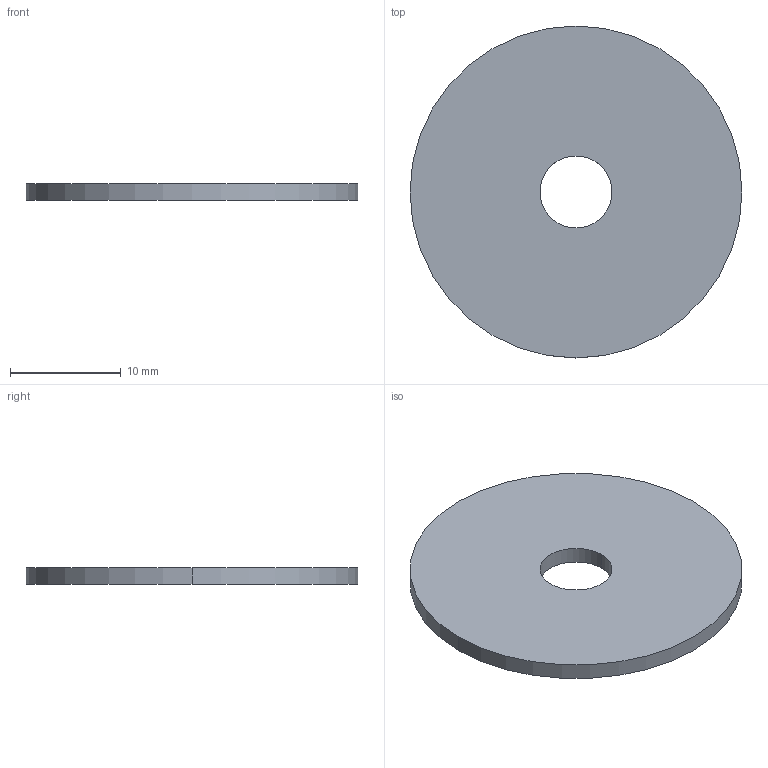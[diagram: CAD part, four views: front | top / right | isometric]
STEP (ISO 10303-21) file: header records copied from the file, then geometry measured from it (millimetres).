
FILE_DESCRIPTION (( 'STEP AP203' ), '1' );
FILE_NAME ('P0333.060-030-A4.step', '2018-12-17T19:08:25', ( '' ), ( '' ), 'SwSTEP 2.0', 'SolidWorks 2017', '' );
FILE_SCHEMA (( 'CONFIG_CONTROL_DESIGN' ));
Length unit declared in the file: millimetre
Products named in the file (1): P0333.060-030-A4
Bounding box: 30 x 30 x 1.5 mm (x, y, z)
Volume: 1010.5 mm3; surface area: 1519.4 mm2
Topology: 1 solids, 1 shells, 6 faces, 12 edges, 8 vertices
Faces by surface type: cylinder 4, plane 2
Entity records: 245 total; most frequent: DIRECTION 34, CARTESIAN_POINT 27, ORIENTED_EDGE 24, AXIS2_PLACEMENT_3D 15, EDGE_CURVE 12, EDGE_LOOP 8, CIRCLE 8, VERTEX_POINT 8
